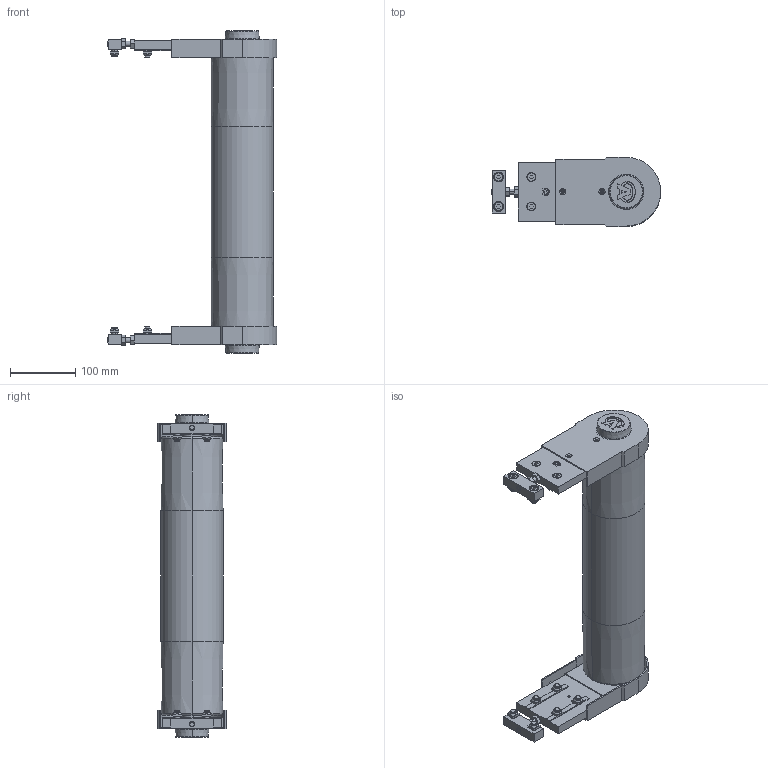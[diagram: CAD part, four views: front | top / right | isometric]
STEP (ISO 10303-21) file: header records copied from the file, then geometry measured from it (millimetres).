
FILE_DESCRIPTION (( 'STEP AP203' ), '1' );
FILE_NAME ('084.095.KIC.400.STEP', '2019-07-30T07:51:35', ( '' ), ( '' ), 'SwSTEP 2.0', 'SolidWorks 2018', '' );
FILE_SCHEMA (( 'CONFIG_CONTROL_DESIGN' ));
Length unit declared in the file: millimetre
Products named in the file (11): 084.808.006_084.808.002; 084.803.003; 084.803.005-1; 084.302.000 DADI ALUSIC 13x13_084.302.004; 084.095.KIC.400; 084.301.000 VITI ALUSIC_084.301.003; 084.802.019_084.802.019; 084.816.107_084.816.107<A macchina>; 084.810.003; 084.812.003; Circlip DIN 471 - 30 x 1.5_Circlip DIN 471 - 30 x 1.5
Assembly tree (39 placements, depth 2):
  084.095.KIC.400
    084.301.000 VITI ALUSIC_084.301.003  x12
    084.302.000 DADI ALUSIC 13x13_084.302.004  x12
    084.816.107_084.816.107<A macchina>
    084.812.003  x2
    084.808.006_084.808.002  x2
    084.810.003  x2
    084.802.019_084.802.019  x2
    084.803.003  x2
    084.803.005-1  x2
    Circlip DIN 471 - 30 x 1.5_Circlip DIN 471 - 30 x 1.5  x2
Bounding box: 258.5 x 105 x 493 mm (x, y, z)
Volume: 1601350.4 mm3; surface area: 740544.5 mm2
Topology: 45 solids, 47 shells, 1442 faces, 3742 edges, 2452 vertices
Faces by surface type: plane 871, cylinder 331, torus 100, cone 84, bspline 48, sphere 8
Entity records: 21076 total; most frequent: CARTESIAN_POINT 3819, DIRECTION 3211, ORIENTED_EDGE 3174, EDGE_CURVE 1587, AXIS2_PLACEMENT_3D 1081, LINE 1049, VECTOR 1049, VERTEX_POINT 1045
